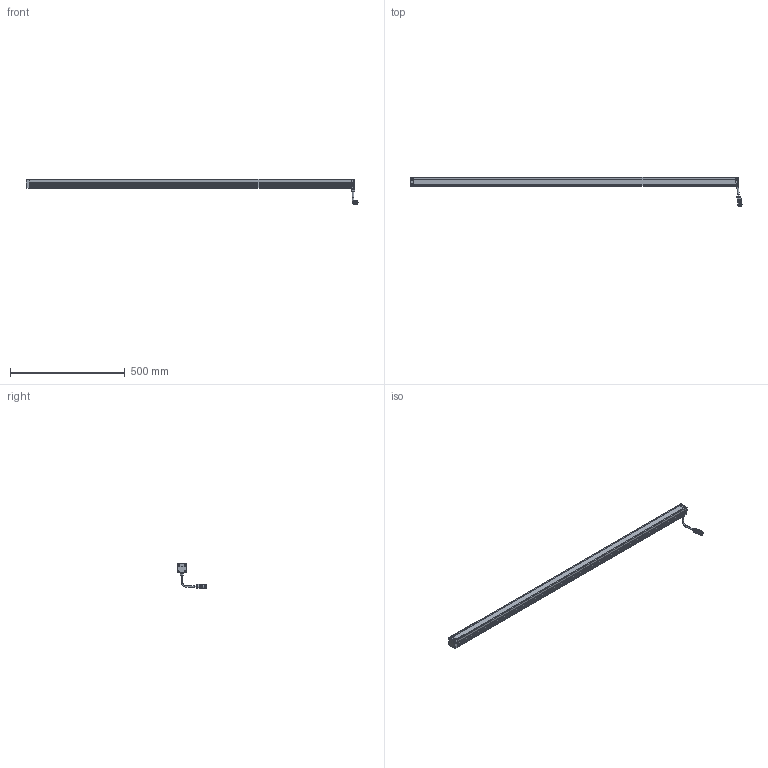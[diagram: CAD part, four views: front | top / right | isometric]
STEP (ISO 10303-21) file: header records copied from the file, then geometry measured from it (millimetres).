
FILE_DESCRIPTION(/* description */ (''),/* implementation_level */ '2;1');
FILE_NAME(/* name */ 'LBHP1400',/* time_stamp */ '2025-01-14T08:09:40+01:00',/* author */ (''),/* organization */ ('iiM AG'),/* preprocessor_version */ 'ST-DEVELOPER v16.7',/* originating_system */ 'DEX',/* authorisation */ $);
FILE_SCHEMA (('AUTOMOTIVE_DESIGN {1 0 10303 214 3 1 1}'));
Length unit declared in the file: millimetre
Products named in the file (1): step export
Bounding box: 1444.79 x 126.2 x 109.58 mm (x, y, z)
Volume: 1825056.5 mm3; surface area: 405110.8 mm2
Topology: 2 solids, 2 shells, 882 faces, 2334 edges, 1476 vertices
Faces by surface type: cylinder 368, plane 336, cone 138, sphere 21, torus 16, bspline 3
Full cylindrical faces by diameter (mm): 1.001 x12, 2.693 x4, 3 x2, 3.1 x4, 3.242 x6, 3.8 x8, 5.6 x8, 6 x8, 6.8 x2, 8.008 x1, 10 x1, 11 x1, 12.9 x2, 14 x1, 15.015 x1, 16.016 x1, 17.518 x1, 18.519 x3, 18.619 x2
Entity records: 32582 total; most frequent: CARTESIAN_POINT 6224, ORIENTED_EDGE 4118, DIRECTION 4048, EDGE_CURVE 2059, AXIS2_PLACEMENT_3D 1523, VERTEX_POINT 1383, FACE_BOUND 1100, EDGE_LOOP 1086
